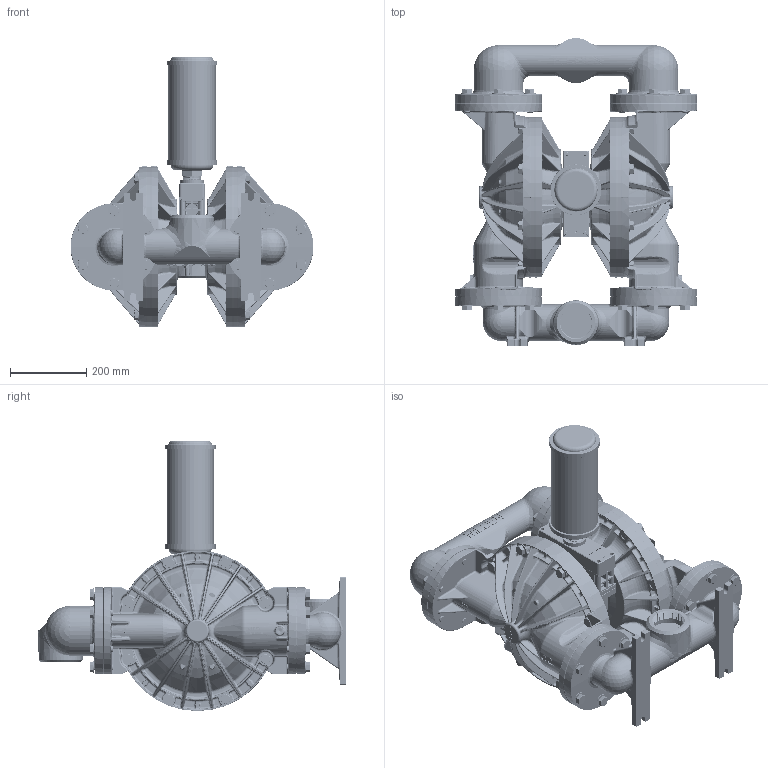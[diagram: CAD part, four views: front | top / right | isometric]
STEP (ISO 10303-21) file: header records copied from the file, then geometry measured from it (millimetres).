
FILE_DESCRIPTION (( 'STEP AP203' ), '1' );
FILE_NAME ('PS1520_ADV_ALUM1.STEP', '2022-07-04T13:02:53', ( '' ), ( '' ), 'SwSTEP 2.0', 'SolidWorks 2019', '' );
FILE_SCHEMA (( 'CONFIG_CONTROL_DESIGN' ));
Length unit declared in the file: inch
Products named in the file (1): PS1520_ADV_ALUM1
Bounding box: 637.24 x 807.5 x 710.18 mm (x, y, z)
Volume: 55047697.7 mm3; surface area: 2669382.1 mm2
Topology: 1 solids, 1 shells, 13507 faces, 32249 edges, 19013 vertices
Faces by surface type: bspline 4410, plane 4145, torus 1539, cylinder 1335, cone 1126, sphere 952
Entity records: 982669 total; most frequent: CARTESIAN_POINT 705578, ORIENTED_EDGE 64254, DIRECTION 49897, EDGE_CURVE 32127, AXIS2_PLACEMENT_3D 20422, VERTEX_POINT 18947, EDGE_LOOP 13840, ADVANCED_FACE 13485
